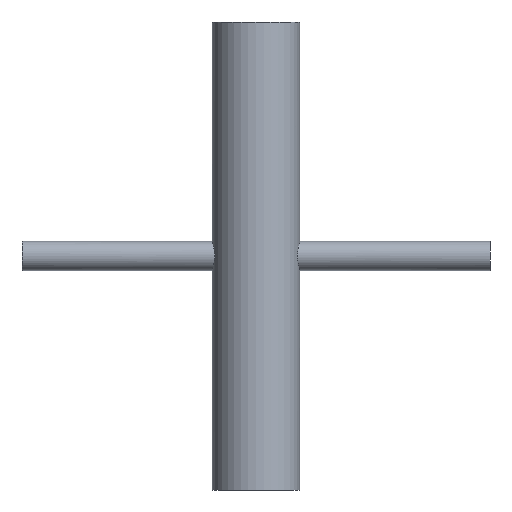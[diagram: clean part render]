
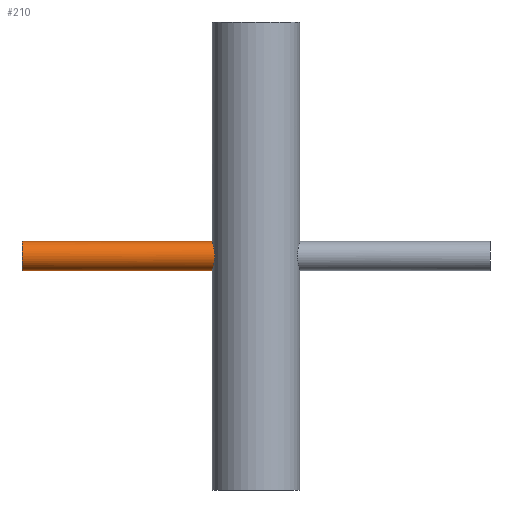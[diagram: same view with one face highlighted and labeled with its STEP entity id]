
A CAD part, front view. The second image highlights one B-rep face of the part: STEP entity #210.
In plain terms, the highlighted cylindrical face has radius 3.175 mm (diameter 6.35 mm), a partial arc.
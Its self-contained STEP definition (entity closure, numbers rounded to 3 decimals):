
#5 = CARTESIAN_POINT ( 'NONE',  ( -9.327, -1.939, 2.523 ) ) ;
#8 = CARTESIAN_POINT ( 'NONE',  ( -50.8, 0., -3.175 ) ) ;
#10 = CARTESIAN_POINT ( 'NONE',  ( -9.422, -1.413, -2.851 ) ) ;
#16 = CARTESIAN_POINT ( 'NONE',  ( -9.186, -2.536, 1.954 ) ) ;
#42 = CARTESIAN_POINT ( 'NONE',  ( -9.292, -2.1, 2.39 ) ) ;
#47 = CARTESIAN_POINT ( 'NONE',  ( -9.392, -1.595, 2.753 ) ) ;
#50 = CARTESIAN_POINT ( 'NONE',  ( -9.114, -2.772, 1.603 ) ) ;
#57 = CARTESIAN_POINT ( 'NONE',  ( -9.422, -1.413, 2.851 ) ) ;
#61 = VECTOR ( 'NONE', #482, 1000. ) ;
#62 = CARTESIAN_POINT ( 'NONE',  ( -9.471, -1.029, 3.011 ) ) ;
#68 = CARTESIAN_POINT ( 'NONE',  ( -9.491, -0.827, 3.073 ) ) ;
#85 = CARTESIAN_POINT ( 'NONE',  ( -9.518, -0.419, 3.154 ) ) ;
#94 = CARTESIAN_POINT ( 'NONE',  ( -9.525, 0., 3.175 ) ) ;
#95 = VERTEX_POINT ( 'NONE', #542 ) ;
#107 = EDGE_CURVE ( 'NONE', #687, #481, #472, .T. ) ;
#133 = DIRECTION ( 'NONE',  ( 1., 0., 0. ) ) ;
#193 = CARTESIAN_POINT ( 'NONE',  ( -9.221, -2.392, -2.098 ) ) ;
#210 = ADVANCED_FACE ( 'NONE', ( #713 ), #281, .T. ) ;
#227 = ORIENTED_EDGE ( 'NONE', *, *, #745, .F. ) ;
#244 = B_SPLINE_CURVE_WITH_KNOTS ( 'NONE', 3,
 ( #94, #512, #85, #68, #62, #57, #47, #5, #42, #16, #50, #647, #465, #425, #372, #351, #302, #588, #549, #543, #536, #491, #193, #486, #598, #556, #10, #612, #661, #562, #606, #665 ),
 .UNSPECIFIED., .F., .F.,
 ( 4, 2, 2, 2, 2, 2, 2, 2, 2, 2, 2, 2, 2, 2, 2, 4 ),
 ( 0., 0.001, 0.001, 0.002, 0.002, 0.004, 0.004, 0.005, 0.006, 0.006, 0.007, 0.007, 0.008, 0.009, 0.009, 0.01 ),
 .UNSPECIFIED. ) ;
#246 = CARTESIAN_POINT ( 'NONE',  ( -9.525, 0., -3.175 ) ) ;
#263 = CARTESIAN_POINT ( 'NONE',  ( -9.525, 0., 3.175 ) ) ;
#276 = ORIENTED_EDGE ( 'NONE', *, *, #348, .T. ) ;
#281 = CYLINDRICAL_SURFACE ( 'NONE', #313, 3.175 ) ;
#288 = EDGE_LOOP ( 'NONE', ( #464, #276, #683, #227 ) ) ;
#302 = CARTESIAN_POINT ( 'NONE',  ( -8.988, -3.154, -0.417 ) ) ;
#313 = AXIS2_PLACEMENT_3D ( 'NONE', #648, #580, #538 ) ;
#342 = VECTOR ( 'NONE', #703, 1000. ) ;
#348 = EDGE_CURVE ( 'NONE', #95, #687, #410, .T. ) ;
#351 = CARTESIAN_POINT ( 'NONE',  ( -8.98, -3.175, -0.205 ) ) ;
#372 = CARTESIAN_POINT ( 'NONE',  ( -8.98, -3.175, 0.212 ) ) ;
#410 = CIRCLE ( 'NONE', #533, 3.175 ) ;
#422 = CARTESIAN_POINT ( 'NONE',  ( -50.8, 0., 3.175 ) ) ;
#425 = CARTESIAN_POINT ( 'NONE',  ( -8.988, -3.154, 0.419 ) ) ;
#464 = ORIENTED_EDGE ( 'NONE', *, *, #469, .F. ) ;
#465 = CARTESIAN_POINT ( 'NONE',  ( -9.016, -3.072, 0.83 ) ) ;
#469 = EDGE_CURVE ( 'NONE', #95, #716, #663, .T. ) ;
#472 = LINE ( 'NONE', #489, #61 ) ;
#481 = VERTEX_POINT ( 'NONE', #246 ) ;
#482 = DIRECTION ( 'NONE',  ( 1., 0., 0. ) ) ;
#486 = CARTESIAN_POINT ( 'NONE',  ( -9.292, -2.1, -2.39 ) ) ;
#489 = CARTESIAN_POINT ( 'NONE',  ( -50.8, 0., -3.175 ) ) ;
#491 = CARTESIAN_POINT ( 'NONE',  ( -9.185, -2.525, -1.936 ) ) ;
#496 = DIRECTION ( 'NONE',  ( 0., 0., -1. ) ) ;
#512 = CARTESIAN_POINT ( 'NONE',  ( -9.525, -0.211, 3.175 ) ) ;
#533 = AXIS2_PLACEMENT_3D ( 'NONE', #560, #133, #496 ) ;
#536 = CARTESIAN_POINT ( 'NONE',  ( -9.119, -2.754, -1.594 ) ) ;
#538 = DIRECTION ( 'NONE',  ( 0., 0., -1. ) ) ;
#542 = CARTESIAN_POINT ( 'NONE',  ( -50.8, 0., 3.175 ) ) ;
#543 = CARTESIAN_POINT ( 'NONE',  ( -9.088, -2.852, -1.411 ) ) ;
#549 = CARTESIAN_POINT ( 'NONE',  ( -9.036, -3.012, -1.024 ) ) ;
#556 = CARTESIAN_POINT ( 'NONE',  ( -9.391, -1.599, -2.751 ) ) ;
#560 = CARTESIAN_POINT ( 'NONE',  ( -50.8, 0., 0. ) ) ;
#562 = CARTESIAN_POINT ( 'NONE',  ( -9.518, -0.422, -3.154 ) ) ;
#580 = DIRECTION ( 'NONE',  ( 1., 0., 0. ) ) ;
#588 = CARTESIAN_POINT ( 'NONE',  ( -9.016, -3.073, -0.826 ) ) ;
#598 = CARTESIAN_POINT ( 'NONE',  ( -9.327, -1.942, -2.521 ) ) ;
#606 = CARTESIAN_POINT ( 'NONE',  ( -9.525, -0.211, -3.175 ) ) ;
#612 = CARTESIAN_POINT ( 'NONE',  ( -9.471, -1.031, -3.01 ) ) ;
#647 = CARTESIAN_POINT ( 'NONE',  ( -9.037, -3.01, 1.031 ) ) ;
#648 = CARTESIAN_POINT ( 'NONE',  ( -50.8, 0., 0. ) ) ;
#661 = CARTESIAN_POINT ( 'NONE',  ( -9.491, -0.833, -3.071 ) ) ;
#663 = LINE ( 'NONE', #422, #342 ) ;
#665 = CARTESIAN_POINT ( 'NONE',  ( -9.525, 0., -3.175 ) ) ;
#683 = ORIENTED_EDGE ( 'NONE', *, *, #107, .T. ) ;
#687 = VERTEX_POINT ( 'NONE', #8 ) ;
#703 = DIRECTION ( 'NONE',  ( 1., 0., 0. ) ) ;
#713 = FACE_OUTER_BOUND ( 'NONE', #288, .T. ) ;
#716 = VERTEX_POINT ( 'NONE', #263 ) ;
#745 = EDGE_CURVE ( 'NONE', #716, #481, #244, .T. ) ;
